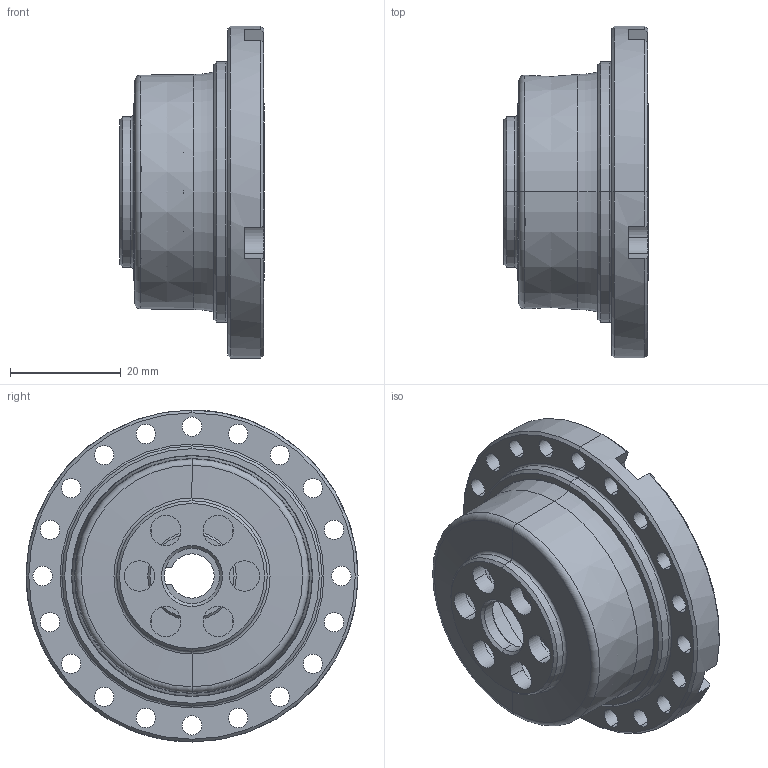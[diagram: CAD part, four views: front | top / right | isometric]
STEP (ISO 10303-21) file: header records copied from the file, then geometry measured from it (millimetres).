
FILE_DESCRIPTION (( 'STEP AP203' ), '1' );
FILE_NAME ('LCSG-17-XXX-P-I.STEP', '2017-03-20T06:19:53', ( 'Windows 蚚誧' ), ( 'Users' ), 'SwSTEP 2.0', 'SolidWorks 2013', '' );
FILE_SCHEMA (( 'CONFIG_CONTROL_DESIGN' ));
Length unit declared in the file: millimetre
Products named in the file (10): 柔性轴承RZC-17G; 疏楷汜ん17G-I; countersunk flat head cross recess screw_din_ISO 7046-1 - M2 x 4 - Z --- 4N; LCSG-17-XXX-P-I; LHS-17-XXX-P02; LCSG-17-XXX-P01-I; LCSG-17-XXX-P03-I; DB-17G-I; RZC-17G内外圈+钢球; RZC-17悵厥殤
Assembly tree (12 placements, depth 4):
  LCSG-17-XXX-P-I
    疏楷汜ん17G-I
      LCSG-17-XXX-P03-I
      DB-17G-I
      柔性轴承RZC-17G
        RZC-17G内外圈+钢球
        RZC-17悵厥殤
    countersunk flat head cross recess screw_din_ISO 7046-1 - M2 x 4 - Z --- 4N  x4
    LHS-17-XXX-P02
    LCSG-17-XXX-P01-I
Bounding box: 26.1 x 60 x 60 mm (x, y, z)
Volume: 20330 mm3; surface area: 26975 mm2
Topology: 34 solids, 34 shells, 559 faces, 1441 edges, 906 vertices
Faces by surface type: cylinder 205, plane 169, cone 93, sphere 46, torus 46
Entity records: 14261 total; most frequent: DIRECTION 2594, CARTESIAN_POINT 2233, ORIENTED_EDGE 2084, AXIS2_PLACEMENT_3D 1120, EDGE_CURVE 1042, VERTEX_POINT 675, CIRCLE 667, EDGE_LOOP 533
